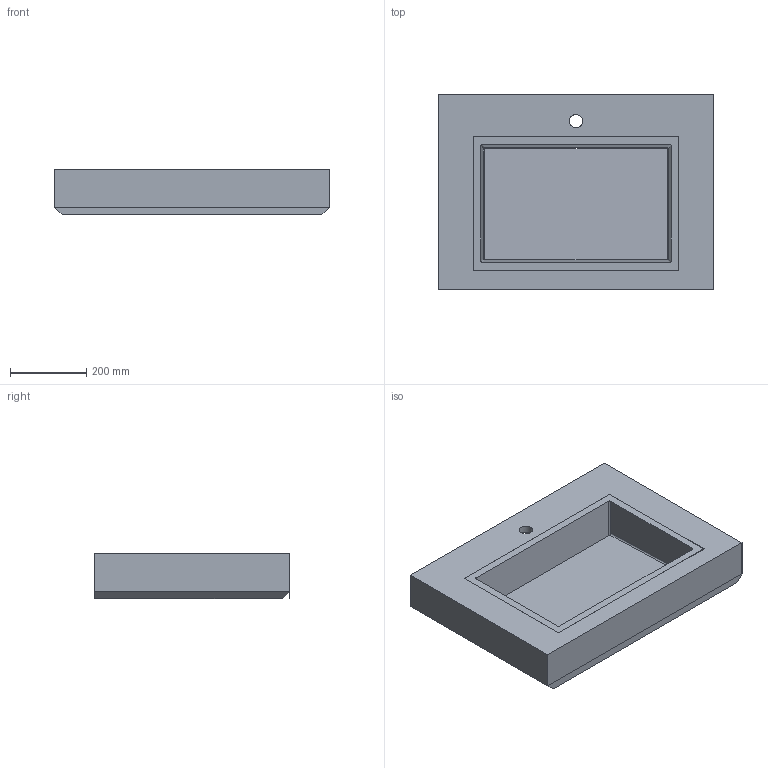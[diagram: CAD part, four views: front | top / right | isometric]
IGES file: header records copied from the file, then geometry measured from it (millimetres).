
Start section: Data from Parasolid IGES Translator 19.0.9, Copyright(c) 2006 Siemens PL M Software. All Rights Reserved.
Global section: file name: noorth-top-H 11,9 D 51,3 W 72_6546.igs; native system: By Siemens PLM Incorporated; preprocessor: XPlus GENERIC/IGES 19.0.9; author: Noname; organization: Noname; date: 20200603.094701; units: metre
Bounding box: 720 x 512 x 119.23 mm (x, y, z)
Volume: 10468875.6 mm3; surface area: 1495005.7 mm2
Topology: 2 solids, 2 shells, 103 faces, 249 edges, 146 vertices
Faces by surface type: plane 47, bspline 29, cylinder 27
Full cylindrical faces by diameter (mm): 34.9 x1
